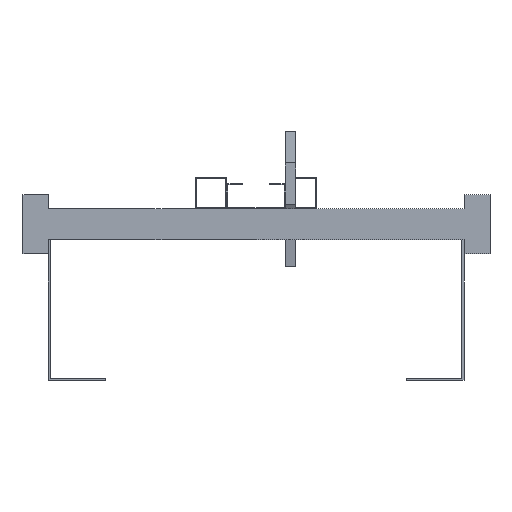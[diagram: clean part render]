
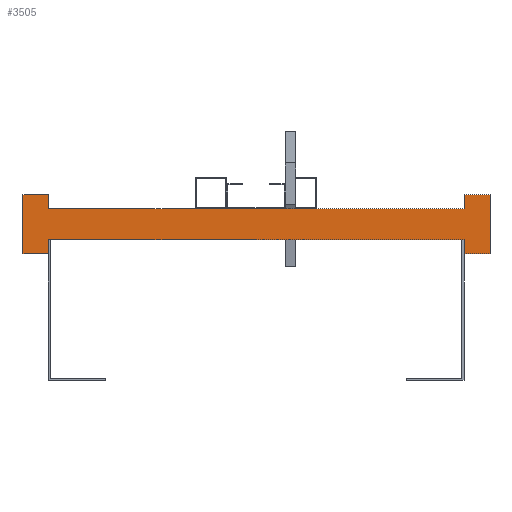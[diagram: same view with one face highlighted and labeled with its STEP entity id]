
A CAD part, front view. The second image highlights one B-rep face of the part: STEP entity #3505.
In plain terms, the highlighted planar face has unit normal (0, -1, 0).
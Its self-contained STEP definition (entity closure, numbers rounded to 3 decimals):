
#1293=DIRECTION('',(0.,0.,1.));
#1294=VECTOR('',#1293,13.5);
#1295=CARTESIAN_POINT('',(200.,0.,-28.5));
#1296=LINE('',#1295,#1294);
#1297=DIRECTION('',(0.,0.,-1.));
#1298=VECTOR('',#1297,13.5);
#1299=CARTESIAN_POINT('',(-200.,0.,-15.));
#1300=LINE('',#1299,#1298);
#1301=DIRECTION('',(-1.,0.,0.));
#1302=VECTOR('',#1301,25.);
#1303=CARTESIAN_POINT('',(-200.,0.,-28.5));
#1304=LINE('',#1303,#1302);
#1305=DIRECTION('',(0.,0.,1.));
#1306=VECTOR('',#1305,57.);
#1307=CARTESIAN_POINT('',(-225.,0.,-28.5));
#1308=LINE('',#1307,#1306);
#1309=DIRECTION('',(1.,0.,0.));
#1310=VECTOR('',#1309,25.);
#1311=CARTESIAN_POINT('',(-225.,0.,28.5));
#1312=LINE('',#1311,#1310);
#1313=DIRECTION('',(0.,0.,-1.));
#1314=VECTOR('',#1313,13.5);
#1315=CARTESIAN_POINT('',(-200.,0.,28.5));
#1316=LINE('',#1315,#1314);
#1317=DIRECTION('',(0.,0.,1.));
#1318=VECTOR('',#1317,13.5);
#1319=CARTESIAN_POINT('',(200.,0.,15.));
#1320=LINE('',#1319,#1318);
#1321=DIRECTION('',(1.,0.,0.));
#1322=VECTOR('',#1321,25.);
#1323=CARTESIAN_POINT('',(200.,0.,28.5));
#1324=LINE('',#1323,#1322);
#1325=DIRECTION('',(0.,0.,-1.));
#1326=VECTOR('',#1325,57.);
#1327=CARTESIAN_POINT('',(225.,0.,28.5));
#1328=LINE('',#1327,#1326);
#1329=DIRECTION('',(-1.,0.,0.));
#1330=VECTOR('',#1329,25.);
#1331=CARTESIAN_POINT('',(225.,0.,-28.5));
#1332=LINE('',#1331,#1330);
#1333=DIRECTION('',(1.,0.,0.));
#1334=VECTOR('',#1333,400.);
#1335=CARTESIAN_POINT('',(-200.,0.,-15.));
#1336=LINE('',#1335,#1334);
#1345=DIRECTION('',(1.,0.,0.));
#1346=VECTOR('',#1345,400.);
#1347=CARTESIAN_POINT('',(-200.,0.,15.));
#1348=LINE('',#1347,#1346);
#1361=CARTESIAN_POINT('',(-225.,0.,28.5));
#1362=CARTESIAN_POINT('',(-200.,0.,28.5));
#1363=VERTEX_POINT('',#1361);
#1364=VERTEX_POINT('',#1362);
#1365=CARTESIAN_POINT('',(-200.,0.,-28.5));
#1366=CARTESIAN_POINT('',(-225.,0.,-28.5));
#1367=VERTEX_POINT('',#1365);
#1368=VERTEX_POINT('',#1366);
#1369=CARTESIAN_POINT('',(225.,0.,28.5));
#1370=CARTESIAN_POINT('',(225.,0.,-28.5));
#1371=VERTEX_POINT('',#1369);
#1372=VERTEX_POINT('',#1370);
#1373=CARTESIAN_POINT('',(200.,0.,-28.5));
#1374=VERTEX_POINT('',#1373);
#1375=CARTESIAN_POINT('',(200.,0.,28.5));
#1376=VERTEX_POINT('',#1375);
#1393=CARTESIAN_POINT('',(-200.,0.,-15.));
#1395=VERTEX_POINT('',#1393);
#1397=CARTESIAN_POINT('',(-200.,0.,15.));
#1399=VERTEX_POINT('',#1397);
#1401=CARTESIAN_POINT('',(200.,0.,-15.));
#1403=VERTEX_POINT('',#1401);
#1405=CARTESIAN_POINT('',(200.,0.,15.));
#1407=VERTEX_POINT('',#1405);
#3481=CARTESIAN_POINT('',(0.,0.,0.));
#3482=DIRECTION('',(0.,1.,0.));
#3483=DIRECTION('',(1.,0.,0.));
#3484=AXIS2_PLACEMENT_3D('',#3481,#3482,#3483);
#3485=PLANE('',#3484);
#3486=ORIENTED_EDGE('',*,*,#2080,.T.);
#3488=ORIENTED_EDGE('',*,*,#3487,.F.);
#3489=ORIENTED_EDGE('',*,*,#1848,.T.);
#3490=ORIENTED_EDGE('',*,*,#2987,.T.);
#3492=ORIENTED_EDGE('',*,*,#3491,.T.);
#3493=ORIENTED_EDGE('',*,*,#3472,.T.);
#3494=ORIENTED_EDGE('',*,*,#1856,.T.);
#3496=ORIENTED_EDGE('',*,*,#3495,.T.);
#3497=ORIENTED_EDGE('',*,*,#2072,.T.);
#3499=ORIENTED_EDGE('',*,*,#3498,.T.);
#3501=ORIENTED_EDGE('',*,*,#3500,.T.);
#3502=ORIENTED_EDGE('',*,*,#2713,.T.);
#3503=EDGE_LOOP('',(#3486,#3488,#3489,#3490,#3492,#3493,#3494,#3496,#3497,#3499,
#3501,#3502));
#3504=FACE_OUTER_BOUND('',#3503,.F.);
#1848=EDGE_CURVE('',#1395,#1367,#1300,.T.);
#1856=EDGE_CURVE('',#1364,#1399,#1316,.T.);
#2072=EDGE_CURVE('',#1407,#1376,#1320,.T.);
#2080=EDGE_CURVE('',#1374,#1403,#1296,.T.);
#2713=EDGE_CURVE('',#1372,#1374,#1332,.T.);
#2987=EDGE_CURVE('',#1367,#1368,#1304,.T.);
#3472=EDGE_CURVE('',#1363,#1364,#1312,.T.);
#3487=EDGE_CURVE('',#1395,#1403,#1336,.T.);
#3491=EDGE_CURVE('',#1368,#1363,#1308,.T.);
#3495=EDGE_CURVE('',#1399,#1407,#1348,.T.);
#3498=EDGE_CURVE('',#1376,#1371,#1324,.T.);
#3500=EDGE_CURVE('',#1371,#1372,#1328,.T.);
#3505=ADVANCED_FACE('',(#3504),#3485,.F.);
